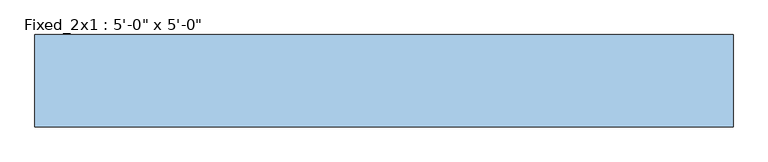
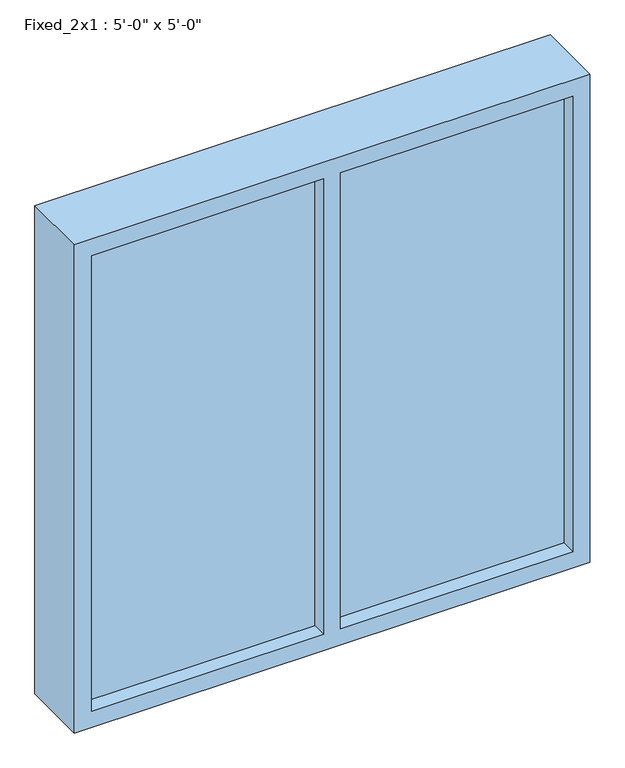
"""IFC4 building model written with IfcOpenShell, lengths in millimetres: window geometry."""

from ifc_helpers import new_model, si_unit, frame, origin, place, context, project, spatial, polyline, outline, extrude, source, transform, mapped, element, save


def window_cc970383(model_context):
    return source(origin(), model_context, "Body", "SweptSolid", [
        extrude(outline(polyline([(-584.2, -82.9137746), (-584.2, -57.5137746), (101.6, -57.5137746), (101.6, -82.9137746), (-584.2, -82.9137746)])), frame((0.0, 0.0, 1117.6), z_axis=(0.0, 0.0, 1.0), x_axis=(1.0, 0.0, 0.0)), (0.0, 0.0, 1.0), 1422.4),
        extrude(outline(polyline([(-1320.8, -82.9137746), (-1320.8, -57.5137746), (-635.0, -57.5137746), (-635.0, -82.9137746), (-1320.8, -82.9137746)])), frame((0.0, 0.0, 1117.6), z_axis=(0.0, 0.0, 1.0), x_axis=(1.0, 0.0, 0.0)), (0.0, 0.0, 1.0), 1422.4),
        extrude(outline(polyline([(2590.8, -1371.6), (1066.8, -1371.6), (1066.8, 152.4), (2590.8, 152.4), (2590.8, -1371.6)]), holes=[polyline([(2540.0, -584.2), (2540.0, 101.6), (1117.6, 101.6), (1117.6, -584.2), (2540.0, -584.2)]), polyline([(2540.0, -1320.8), (2540.0, -635.0), (1117.6, -635.0), (1117.6, -1320.8), (2540.0, -1320.8)])]), frame((0.0, -127.3637746, 0.0), z_axis=(0.0, 1.0, 0.0), x_axis=(0.0, 0.0, 1.0)), (0.0, 0.0, 1.0), 201.6125),
    ])


if __name__ == "__main__":
    model = new_model("IFC4")
    model_context = context("Model", 3, world=origin())
    ifc_project = project(units=[si_unit("LENGTHUNIT", "METRE", prefix="MILLI")], contexts=[model_context])
    site = spatial("IfcSite", under=ifc_project)
    building = spatial("IfcBuilding", under=site)
    placement = place(None, origin())
    window_shape = window_cc970383(model_context)
    element("IfcWindow", 1, ObjectType="Fixed_2x1 : 5'-0\" x 5'-0\"", at=placement, inside=building, context=model_context, shape_type="MappedRepresentation", body=[
        mapped(window_shape, transform((0.0, 0.0, 0.0), x_axis=(1.0, 0.0, 0.0), y_axis=(0.0, 1.0, 0.0), z_axis=(0.0, 0.0, 1.0))),
    ])
    save(model, "model.ifc")
